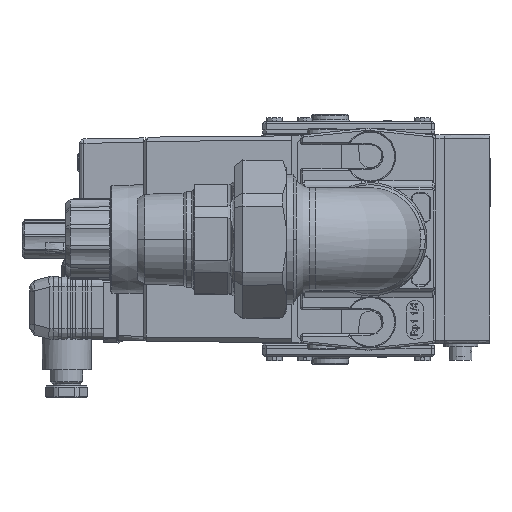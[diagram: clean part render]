
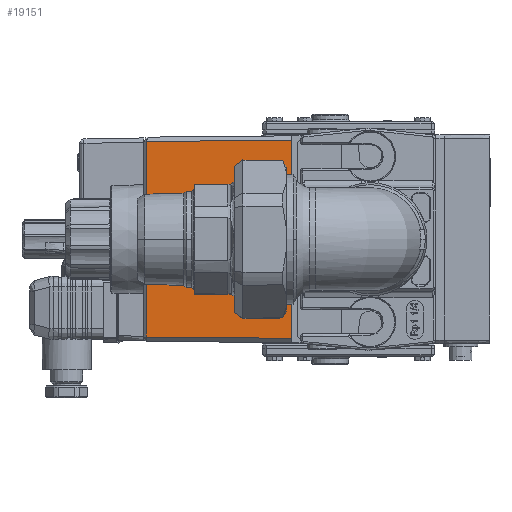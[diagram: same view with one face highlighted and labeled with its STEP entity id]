
A CAD part, left-side view. The second image highlights one B-rep face of the part: STEP entity #19151.
In plain terms, the highlighted planar face has unit normal (-1, 0.009, 0) as drawn and (1, 0, 0.009) by its records, which use the part's own axes.
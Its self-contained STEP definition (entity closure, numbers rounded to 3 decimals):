
#8280 = VERTEX_POINT ( 'NONE', #74723 ) ;
#15563 = DIRECTION ( 'NONE',  ( 0.009, -0.009, -1. ) ) ;
#16612 = VECTOR ( 'NONE', #15563, 1000. ) ;
#16990 = ORIENTED_EDGE ( 'NONE', *, *, #82423, .T. ) ;
#19151 = ADVANCED_FACE ( 'NONE', ( #87439 ), #19652, .T. ) ;
#19652 = PLANE ( 'NONE',  #98084 ) ;
#28294 = ORIENTED_EDGE ( 'NONE', *, *, #55078, .F. ) ;
#29252 = DIRECTION ( 'NONE',  ( 0.009, 0., -1. ) ) ;
#31649 = VERTEX_POINT ( 'NONE', #53652 ) ;
#33791 = EDGE_CURVE ( 'NONE', #79786, #8280, #64999, .T. ) ;
#38303 = DIRECTION ( 'NONE',  ( 1., 0., 0.009 ) ) ;
#40519 = CARTESIAN_POINT ( 'NONE',  ( 30., 45.5, 0. ) ) ;
#42819 = CARTESIAN_POINT ( 'NONE',  ( 30., 45.5, -0.007 ) ) ;
#52571 = VERTEX_POINT ( 'NONE', #40519 ) ;
#53652 = CARTESIAN_POINT ( 'NONE',  ( 30., -45.5, 0. ) ) ;
#54137 = CARTESIAN_POINT ( 'NONE',  ( 29.386, -50.05, 70.359 ) ) ;
#55078 = EDGE_CURVE ( 'NONE', #79786, #52571, #58597, .T. ) ;
#58597 = LINE ( 'NONE', #42819, #71401 ) ;
#59017 = LINE ( 'NONE', #65798, #16612 ) ;
#59785 = CARTESIAN_POINT ( 'NONE',  ( 29.415, 44.915, 67.009 ) ) ;
#63462 = EDGE_CURVE ( 'NONE', #8280, #31649, #59017, .T. ) ;
#64999 = LINE ( 'NONE', #91536, #76406 ) ;
#65798 = CARTESIAN_POINT ( 'NONE',  ( 29.415, -44.915, 67.009 ) ) ;
#68241 = LINE ( 'NONE', #69355, #88172 ) ;
#69256 = DIRECTION ( 'NONE',  ( 0.009, 0.009, -1. ) ) ;
#69355 = CARTESIAN_POINT ( 'NONE',  ( 30., -52.8, 0. ) ) ;
#71401 = VECTOR ( 'NONE', #69256, 1000. ) ;
#74723 = CARTESIAN_POINT ( 'NONE',  ( 29.415, -44.915, 67.009 ) ) ;
#76406 = VECTOR ( 'NONE', #84178, 1000. ) ;
#79786 = VERTEX_POINT ( 'NONE', #59785 ) ;
#82423 = EDGE_CURVE ( 'NONE', #31649, #52571, #68241, .T. ) ;
#84178 = DIRECTION ( 'NONE',  ( 0., -1., 0. ) ) ;
#86325 = DIRECTION ( 'NONE',  ( 0., 1., 0. ) ) ;
#87439 = FACE_OUTER_BOUND ( 'NONE', #102393, .T. ) ;
#88172 = VECTOR ( 'NONE', #86325, 1000. ) ;
#91536 = CARTESIAN_POINT ( 'NONE',  ( 29.415, -50.05, 67.009 ) ) ;
#98084 = AXIS2_PLACEMENT_3D ( 'NONE', #54137, #38303, #29252 ) ;
#98974 = ORIENTED_EDGE ( 'NONE', *, *, #63462, .T. ) ;
#102393 = EDGE_LOOP ( 'NONE', ( #98974, #16990, #28294, #106652 ) ) ;
#106652 = ORIENTED_EDGE ( 'NONE', *, *, #33791, .T. ) ;
